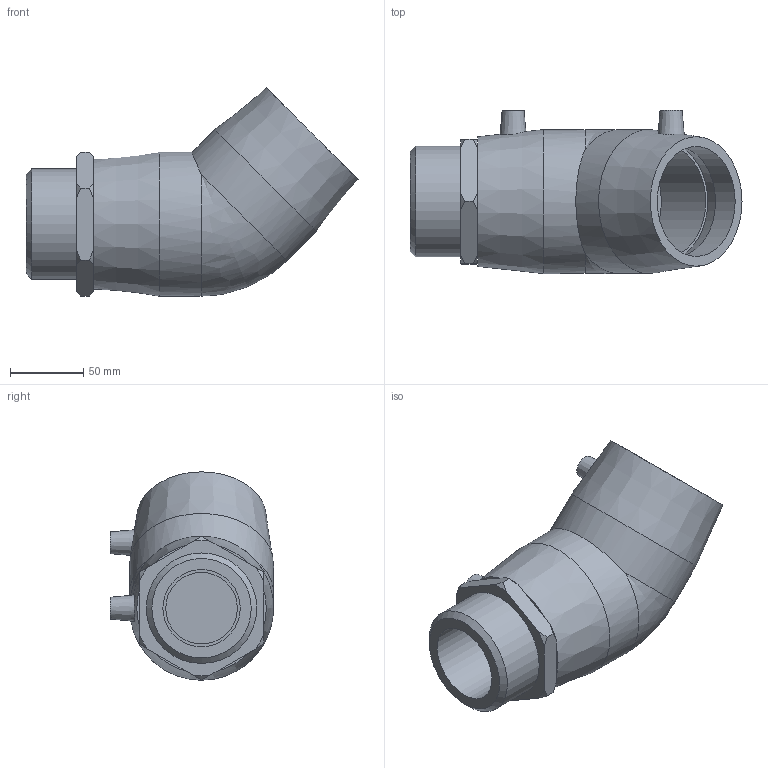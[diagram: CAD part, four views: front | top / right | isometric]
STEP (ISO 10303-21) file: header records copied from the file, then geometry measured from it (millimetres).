
FILE_DESCRIPTION(/* description */ ('PLASSON 45° ELBOW TRANSITION MALE 75-2.1/2"'),/* implementation_level */ '2;1');
FILE_NAME(/* name */ 'C:\Dropbox\KIMPROJECTS-Inventor\99-16-3568-Processing\ElectroFusion Fittings\02.02.20\492604\492604075025.ipt.stp',/* time_stamp */ '2020-02-02T12:20:12+02:00',/* author */ ('KIM'),/* organization */ (''),/* preprocessor_version */ 'ST-DEVELOPER v15.6',/* originating_system */ 'Autodesk Inventor 2015',/* authorisation */ '');
FILE_SCHEMA (('AUTOMOTIVE_DESIGN { 1 0 10303 214 3 1 1 }'));
Length unit declared in the file: millimetre
Products named in the file (1): 492604075025
Bounding box: 226 x 111 x 141.83 mm (x, y, z)
Volume: 844621.2 mm3; surface area: 126338.7 mm2
Topology: 1 solids, 2 shells, 59 faces, 133 edges, 88 vertices
Faces by surface type: plane 24, cone 19, cylinder 15, bspline 1
Full cylindrical faces by diameter (mm): 4 x2, 10 x2, 48.75 x2, 52.629 x1, 59 x1, 75 x4, 75.184 x1, 98 x2
Entity records: 1494 total; most frequent: CARTESIAN_POINT 363, DIRECTION 236, ORIENTED_EDGE 188, AXIS2_PLACEMENT_3D 109, EDGE_LOOP 97, EDGE_CURVE 94, VERTEX_POINT 75, FACE_OUTER_BOUND 59
